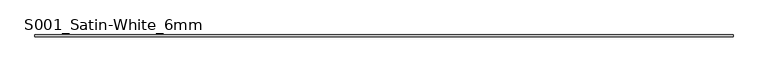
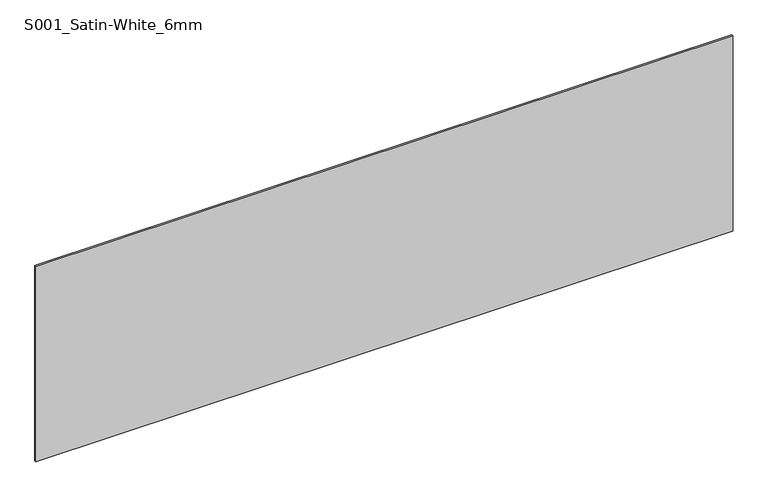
"""IFC4 building model written with IfcOpenShell, lengths in millimetres: plate geometry, Curtain-Panels_Outdoor-Material_HI-MACS_Solids : S001_Satin-White_6mm."""

from ifc_helpers import new_model, si_unit, origin, origin_with_axes, place, context, project, spatial, polyline, outline, extrude, source, transform, mapped, element, save


def s001_satin_white_6mm_679af8cc(model_context):
    return source(origin(), model_context, "Body", "SweptSolid", [
        extrude(outline(polyline([(1245.0, 3.0), (1245.0, -3.0), (-1245.0, -3.0), (-1245.0, 3.0), (1245.0, 3.0)])), origin_with_axes(), (0.0, 0.0, 1.0), 738.1288393),
    ])


if __name__ == "__main__":
    model = new_model("IFC4")
    model_context = context("Model", 3, world=origin())
    ifc_project = project(units=[si_unit("LENGTHUNIT", "METRE", prefix="MILLI")], contexts=[model_context])
    site = spatial("IfcSite", under=ifc_project)
    building = spatial("IfcBuilding", under=site)
    placement = place(None, origin())
    s001_satin_white_6mm_shape = s001_satin_white_6mm_679af8cc(model_context)
    element("IfcPlate", 1, ObjectType="Curtain-Panels_Outdoor-Material_HI-MACS_Solids : S001_Satin-White_6mm", at=placement, inside=building, context=model_context, shape_type="MappedRepresentation", body=[
        mapped(s001_satin_white_6mm_shape, transform((0.0, 0.0, 0.0), x_axis=(1.0, 0.0, 0.0), y_axis=(0.0, 1.0, 0.0), z_axis=(0.0, 0.0, 1.0))),
    ])
    save(model, "model.ifc")
